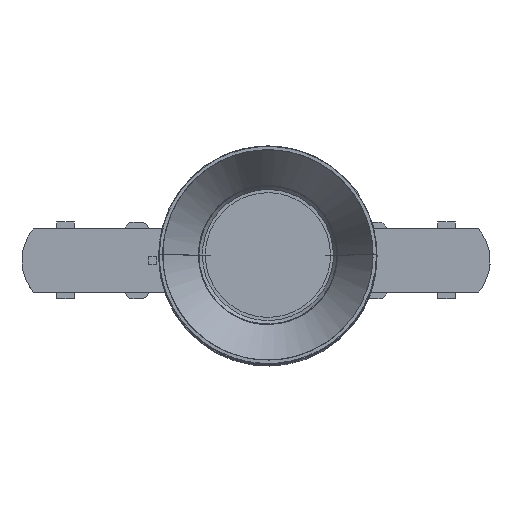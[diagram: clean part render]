
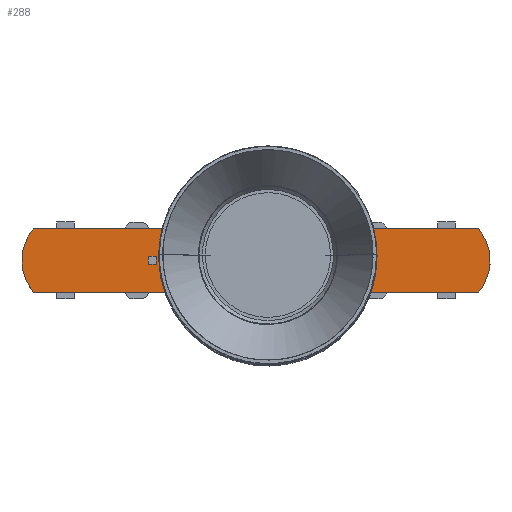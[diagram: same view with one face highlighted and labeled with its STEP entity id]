
A CAD part, top view. The second image highlights one B-rep face of the part: STEP entity #288.
In plain terms, the highlighted planar face has unit normal (0, 0, 1).
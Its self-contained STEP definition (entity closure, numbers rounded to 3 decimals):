
#62=FACE_BOUND('',#790,.T.);
#63=FACE_BOUND('',#791,.T.);
#288=ADVANCED_FACE('',(#536,#62,#63),#4074,.T.);
#536=FACE_OUTER_BOUND('',#789,.T.);
#789=EDGE_LOOP('',(#2025,#2026,#2027,#2028));
#790=EDGE_LOOP('',(#2029,#2030,#2031,#2032));
#791=EDGE_LOOP('',(#2033,#2034,#2035,#2036));
#2025=ORIENTED_EDGE('',*,*,#2779,.F.);
#2026=ORIENTED_EDGE('',*,*,#2761,.F.);
#2027=ORIENTED_EDGE('',*,*,#2777,.F.);
#2028=ORIENTED_EDGE('',*,*,#2752,.F.);
#2029=ORIENTED_EDGE('',*,*,#2770,.F.);
#2030=ORIENTED_EDGE('',*,*,#2771,.F.);
#2031=ORIENTED_EDGE('',*,*,#2772,.F.);
#2032=ORIENTED_EDGE('',*,*,#2769,.F.);
#2033=ORIENTED_EDGE('',*,*,#2773,.F.);
#2034=ORIENTED_EDGE('',*,*,#2774,.F.);
#2035=ORIENTED_EDGE('',*,*,#2775,.F.);
#2036=ORIENTED_EDGE('',*,*,#2776,.F.);
#2752=EDGE_CURVE('',#3873,#3874,#3404,.T.);
#2761=EDGE_CURVE('',#3881,#3882,#3413,.T.);
#2769=EDGE_CURVE('',#3889,#3890,#3421,.T.);
#2770=EDGE_CURVE('',#3891,#3889,#3422,.T.);
#2771=EDGE_CURVE('',#3892,#3891,#3423,.T.);
#2772=EDGE_CURVE('',#3890,#3892,#3424,.T.);
#2773=EDGE_CURVE('',#3893,#3894,#3425,.T.);
#2774=EDGE_CURVE('',#3895,#3893,#3426,.T.);
#2775=EDGE_CURVE('',#3896,#3895,#3427,.T.);
#2776=EDGE_CURVE('',#3894,#3896,#3428,.T.);
#2777=EDGE_CURVE('',#3874,#3881,#4176,.T.);
#2779=EDGE_CURVE('',#3882,#3873,#4178,.T.);
#3404=B_SPLINE_CURVE_WITH_KNOTS('',1,(#13843,#13844),.UNSPECIFIED.,.F.,
 .F.,(2,2),(-112.,0.),.UNSPECIFIED.);
#3413=B_SPLINE_CURVE_WITH_KNOTS('',1,(#13861,#13862),.UNSPECIFIED.,.F.,
 .F.,(2,2),(-112.,0.),.UNSPECIFIED.);
#3421=B_SPLINE_CURVE_WITH_KNOTS('',1,(#13877,#13878),.UNSPECIFIED.,.F.,
 .F.,(2,2),(0.,2.),.UNSPECIFIED.);
#3422=B_SPLINE_CURVE_WITH_KNOTS('',1,(#13879,#13880),.UNSPECIFIED.,.F.,
 .F.,(2,2),(0.,2.),.UNSPECIFIED.);
#3423=B_SPLINE_CURVE_WITH_KNOTS('',1,(#13881,#13882),.UNSPECIFIED.,.F.,
 .F.,(2,2),(0.,2.),.UNSPECIFIED.);
#3424=B_SPLINE_CURVE_WITH_KNOTS('',1,(#13883,#13884),.UNSPECIFIED.,.F.,
 .F.,(2,2),(0.,2.),.UNSPECIFIED.);
#3425=B_SPLINE_CURVE_WITH_KNOTS('',1,(#13885,#13886),.UNSPECIFIED.,.F.,
 .F.,(2,2),(-2.,0.),.UNSPECIFIED.);
#3426=B_SPLINE_CURVE_WITH_KNOTS('',1,(#13887,#13888),.UNSPECIFIED.,.F.,
 .F.,(2,2),(-2.,0.),.UNSPECIFIED.);
#3427=B_SPLINE_CURVE_WITH_KNOTS('',1,(#13889,#13890),.UNSPECIFIED.,.F.,
 .F.,(2,2),(-2.,0.),.UNSPECIFIED.);
#3428=B_SPLINE_CURVE_WITH_KNOTS('',1,(#13891,#13892),.UNSPECIFIED.,.F.,
 .F.,(2,2),(-2.,0.),.UNSPECIFIED.);
#3873=VERTEX_POINT('',#13757);
#3874=VERTEX_POINT('',#13758);
#3881=VERTEX_POINT('',#13765);
#3882=VERTEX_POINT('',#13766);
#3889=VERTEX_POINT('',#13773);
#3890=VERTEX_POINT('',#13774);
#3891=VERTEX_POINT('',#13775);
#3892=VERTEX_POINT('',#13776);
#3893=VERTEX_POINT('',#13777);
#3894=VERTEX_POINT('',#13778);
#3895=VERTEX_POINT('',#13779);
#3896=VERTEX_POINT('',#13780);
#4074=PLANE('',#4439);
#4176=(
BOUNDED_CURVE()
B_SPLINE_CURVE(2,(#13893,#13894,#13895),.UNSPECIFIED.,.F.,.F.)
B_SPLINE_CURVE_WITH_KNOTS((3,3),(0.,17.46),.UNSPECIFIED.)
CURVE()
GEOMETRIC_REPRESENTATION_ITEM()
RATIONAL_B_SPLINE_CURVE((1.,0.753,1.))
REPRESENTATION_ITEM('')
);
#4178=(
BOUNDED_CURVE()
B_SPLINE_CURVE(2,(#13899,#13900,#13901),.UNSPECIFIED.,.F.,.F.)
B_SPLINE_CURVE_WITH_KNOTS((3,3),(0.,17.46),.UNSPECIFIED.)
CURVE()
GEOMETRIC_REPRESENTATION_ITEM()
RATIONAL_B_SPLINE_CURVE((1.,0.753,1.))
REPRESENTATION_ITEM('')
);
#4439=AXIS2_PLACEMENT_3D('',#13717,#4639,$);
#4639=DIRECTION('',(0.,0.,1.));
#13717=CARTESIAN_POINT('',(30.453,81.056,32.096));
#13757=CARTESIAN_POINT('',(-88.538,97.066,32.096));
#13758=CARTESIAN_POINT('',(23.462,97.066,32.096));
#13765=CARTESIAN_POINT('',(23.462,81.066,32.096));
#13766=CARTESIAN_POINT('',(-88.538,81.066,32.096));
#13773=CARTESIAN_POINT('',(-7.441,90.066,32.096));
#13774=CARTESIAN_POINT('',(-7.441,88.066,32.096));
#13775=CARTESIAN_POINT('',(-5.441,90.066,32.096));
#13776=CARTESIAN_POINT('',(-5.441,88.066,32.096));
#13777=CARTESIAN_POINT('',(-57.636,88.066,32.096));
#13778=CARTESIAN_POINT('',(-57.636,90.066,32.096));
#13779=CARTESIAN_POINT('',(-59.636,88.066,32.096));
#13780=CARTESIAN_POINT('',(-59.636,90.066,32.096));
#13843=CARTESIAN_POINT('',(-88.538,97.066,32.096));
#13844=CARTESIAN_POINT('',(23.462,97.066,32.096));
#13861=CARTESIAN_POINT('',(23.462,81.066,32.096));
#13862=CARTESIAN_POINT('',(-88.538,81.066,32.096));
#13877=CARTESIAN_POINT('',(-7.441,90.066,32.096));
#13878=CARTESIAN_POINT('',(-7.441,88.066,32.096));
#13879=CARTESIAN_POINT('',(-5.441,90.066,32.096));
#13880=CARTESIAN_POINT('',(-7.441,90.066,32.096));
#13881=CARTESIAN_POINT('',(-5.441,88.066,32.096));
#13882=CARTESIAN_POINT('',(-5.441,90.066,32.096));
#13883=CARTESIAN_POINT('',(-7.441,88.066,32.096));
#13884=CARTESIAN_POINT('',(-5.441,88.066,32.096));
#13885=CARTESIAN_POINT('',(-57.636,88.066,32.096));
#13886=CARTESIAN_POINT('',(-57.636,90.066,32.096));
#13887=CARTESIAN_POINT('',(-59.636,88.066,32.096));
#13888=CARTESIAN_POINT('',(-57.636,88.066,32.096));
#13889=CARTESIAN_POINT('',(-59.636,90.066,32.096));
#13890=CARTESIAN_POINT('',(-59.636,88.066,32.096));
#13891=CARTESIAN_POINT('',(-57.636,90.066,32.096));
#13892=CARTESIAN_POINT('',(-59.636,90.066,32.096));
#13893=CARTESIAN_POINT('',(23.462,97.066,32.096));
#13894=CARTESIAN_POINT('',(30.443,89.066,32.096));
#13895=CARTESIAN_POINT('',(23.462,81.066,32.096));
#13899=CARTESIAN_POINT('',(-88.538,81.066,32.096));
#13900=CARTESIAN_POINT('',(-95.52,89.066,32.096));
#13901=CARTESIAN_POINT('',(-88.538,97.066,32.096));
